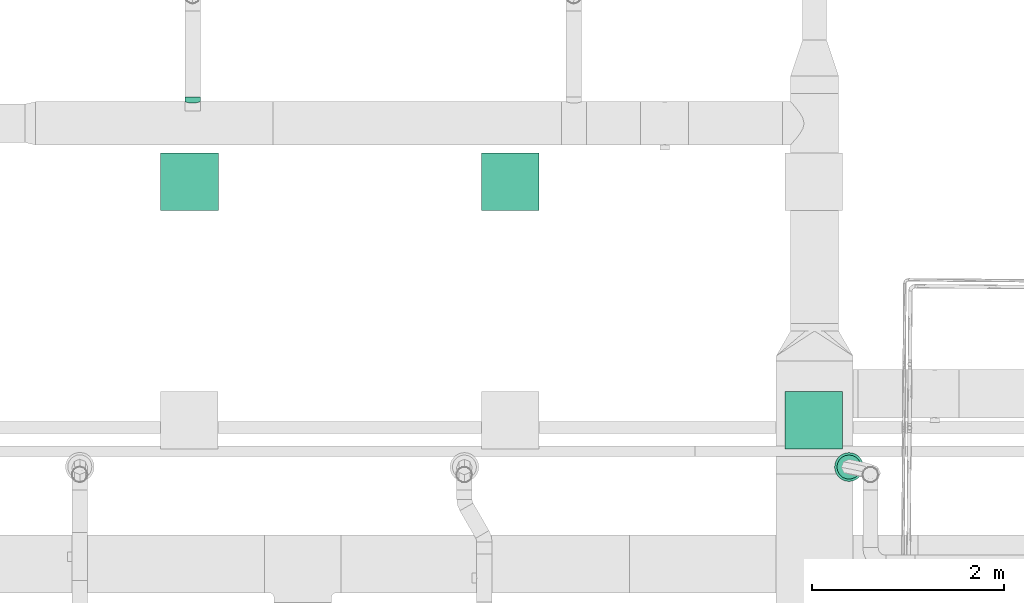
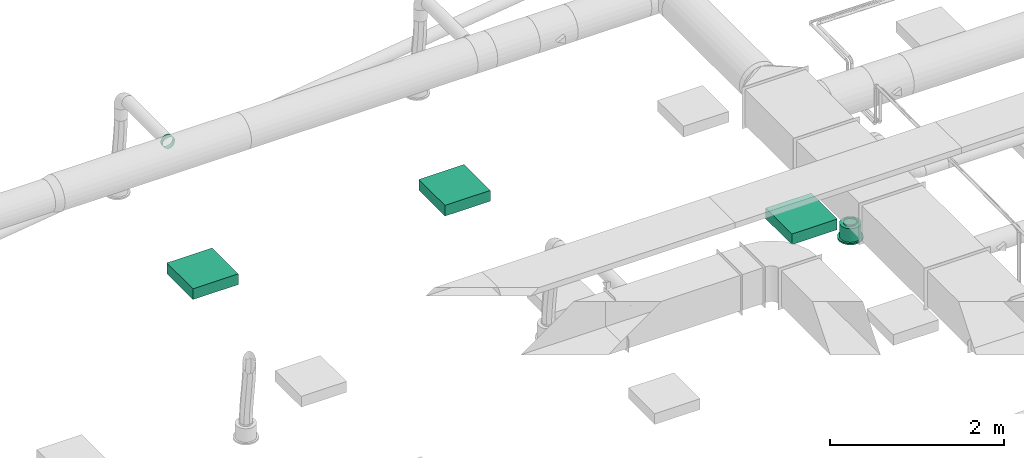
# One storey, part 162 of 374: 3 distribution elements, 1 flow segment, 1 flow terminal.
"""IFC2X3 building model written with IfcOpenShell, lengths in metres."""

from ifc_helpers import new_model, si_unit, direction, frame, frame_2d, origin, place, context, subcontext, project, spatial, rectangle, extrude, open_shell, surface_model, source, transform, mapped, element, save


model = new_model("IFC2X3")

# Units and contexts
model_context = context("Model", 3, precision=1e-05, world=origin(), true_north=direction((-0.4480736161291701, 0.8939966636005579)))
body_context = subcontext(model_context, "Body", "Model", "MODEL_VIEW")
ifc_project = project(units=[si_unit("LENGTHUNIT", "METRE"), si_unit("AREAUNIT", "SQUARE_METRE"), si_unit("VOLUMEUNIT", "CUBIC_METRE"), si_unit("PLANEANGLEUNIT", "RADIAN"), si_unit("THERMODYNAMICTEMPERATUREUNIT", "KELVIN"), si_unit("MASSUNIT", "GRAM", prefix="KILO"), si_unit("TIMEUNIT", "SECOND")], contexts=[model_context])

# Site, building, storey
site_placement = place(None, origin())
site = spatial("IfcSite", under=ifc_project, at=site_placement, Name="Site 1", CompositionType="ELEMENT")
building_placement = place(site_placement, origin())
building = spatial("IfcBuilding", under=site, at=building_placement, Name="Undefined", CompositionType="ELEMENT")
storey_placement = place(building_placement, origin())
storey = spatial("IfcBuildingStorey", under=building, at=storey_placement, Name="Rez de chauss\x8ee", CompositionType="ELEMENT", Elevation=0.0)

# Flow terminal
shared_shape_1 = source(origin(), body_context, "Body", "SurfaceModel", [
    surface_model("IfcFaceBasedSurfaceModel", [(0.0, 0.0, 0.0), (0.03915785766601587, 0.0, 0.0), (0.03915785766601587, 0.020000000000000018, 0.0), (3.552713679e-15, 0.020000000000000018, 0.0), (0.07698144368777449, 0.0, -0.010134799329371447), (0.07698144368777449, 0.020000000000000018, -0.010134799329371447), (0.11089314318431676, 0.0, -0.02971372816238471), (0.11089314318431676, 0.020000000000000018, -0.02971372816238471), (0.13858192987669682, 0.0, -0.05740251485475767), (0.13858192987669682, 0.020000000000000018, -0.05740251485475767), (0.15816085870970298, 0.0, -0.09131421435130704), (0.15816085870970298, 0.020000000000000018, -0.09131421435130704), (0.16829565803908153, 0.0, -0.12913780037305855), (0.16829565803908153, 0.020000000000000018, -0.12913780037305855), (0.16829565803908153, 0.0, -0.16829565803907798), (0.16829565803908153, 0.020000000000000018, -0.16829565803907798), (0.15816085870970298, 0.0, -0.20611924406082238), (0.15816085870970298, 0.020000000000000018, -0.20611924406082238), (0.13858192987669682, 0.0, -0.24003094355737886), (0.13858192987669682, 0.020000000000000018, -0.24003094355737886), (0.11089314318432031, 0.0, -0.2677197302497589), (0.11089314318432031, 0.020000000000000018, -0.2677197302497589), (0.07698144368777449, 0.0, -0.2872986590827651), (0.07698144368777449, 0.020000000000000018, -0.2872986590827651), (0.039157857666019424, 0.0, -0.29743345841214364), (0.039157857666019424, 0.020000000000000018, -0.29743345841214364), (3.552713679e-15, 0.0, -0.29743345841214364), (3.552713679e-15, 0.020000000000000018, -0.29743345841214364), (-0.03782358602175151, 0.0, -0.2872986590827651), (-0.03782358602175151, 0.020000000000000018, -0.2872986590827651), (-0.07173528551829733, 0.0, -0.2677197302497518), (-0.07173528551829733, 0.020000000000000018, -0.2677197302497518), (-0.0994240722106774, 0.0, -0.24003094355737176), (-0.0994240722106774, 0.020000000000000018, -0.24003094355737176), (-0.11900300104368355, 0.0, -0.2061192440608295), (-0.11900300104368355, 0.020000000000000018, -0.2061192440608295), (-0.1291378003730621, 0.0, -0.16829565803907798), (-0.1291378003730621, 0.020000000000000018, -0.16829565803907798), (-0.1291378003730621, 0.0, -0.12913780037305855), (-0.1291378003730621, 0.020000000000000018, -0.12913780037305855), (-0.11900300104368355, 0.0, -0.09131421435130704), (-0.11900300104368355, 0.020000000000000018, -0.09131421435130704), (-0.0994240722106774, 0.0, -0.05740251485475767), (-0.0994240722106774, 0.020000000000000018, -0.05740251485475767), (-0.07173528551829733, 0.0, -0.029713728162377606), (-0.07173528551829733, 0.020000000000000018, -0.029713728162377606), (-0.03782358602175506, 0.0, -0.010134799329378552), (-0.03782358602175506, 0.020000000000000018, -0.010134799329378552), (0.019578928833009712, 0.0, -0.14871672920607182), (0.019578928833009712, 0.020000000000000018, -0.14871672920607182), (0.003263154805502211, 0.020000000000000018, -0.02478612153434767), (0.035894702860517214, 0.020000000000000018, -0.02478612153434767), (0.035894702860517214, 0.20999999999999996, -0.02478612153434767), (0.003263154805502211, 0.20999999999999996, -0.02478612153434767), (0.06741435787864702, 0.020000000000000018, -0.033231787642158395), (0.06741435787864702, 0.20999999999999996, -0.033231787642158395), (0.0956741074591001, 0.020000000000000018, -0.04954756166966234), (0.0956741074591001, 0.20999999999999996, -0.04954756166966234), (0.11874809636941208, 0.020000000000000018, -0.07262155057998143), (0.11874809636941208, 0.20999999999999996, -0.07262155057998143), (0.13506387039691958, 0.020000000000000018, -0.10088130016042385), (0.13506387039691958, 0.20999999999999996, -0.10088130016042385), (0.1435095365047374, 0.020000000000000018, -0.13240095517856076), (0.1435095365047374, 0.20999999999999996, -0.13240095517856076), (0.1435095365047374, 0.020000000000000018, -0.16503250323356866), (0.1435095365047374, 0.20999999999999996, -0.16503250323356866), (0.13506387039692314, 0.020000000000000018, -0.19655215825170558), (0.13506387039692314, 0.20999999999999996, -0.19655215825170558), (0.11874809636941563, 0.020000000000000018, -0.2248119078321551), (0.11874809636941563, 0.20999999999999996, -0.2248119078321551), (0.09567410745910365, 0.020000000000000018, -0.24788589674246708), (0.09567410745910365, 0.20999999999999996, -0.24788589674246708), (0.06741435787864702, 0.020000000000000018, -0.26420167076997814), (0.06741435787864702, 0.20999999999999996, -0.26420167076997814), (0.035894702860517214, 0.020000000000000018, -0.27264733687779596), (0.035894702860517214, 0.20999999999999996, -0.27264733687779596), (0.0032631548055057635, 0.020000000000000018, -0.27264733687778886), (0.0032631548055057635, 0.20999999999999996, -0.27264733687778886), (-0.028256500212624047, 0.020000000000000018, -0.26420167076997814), (-0.028256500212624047, 0.20999999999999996, -0.26420167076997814), (-0.05651624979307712, 0.020000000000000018, -0.2478858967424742), (-0.05651624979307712, 0.20999999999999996, -0.2478858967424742), (-0.07959023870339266, 0.020000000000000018, -0.2248119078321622), (-0.07959023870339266, 0.20999999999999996, -0.2248119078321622), (-0.09590601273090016, 0.020000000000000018, -0.19655215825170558), (-0.09590601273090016, 0.20999999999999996, -0.19655215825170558), (-0.10435167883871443, 0.020000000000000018, -0.16503250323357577), (-0.10435167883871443, 0.20999999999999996, -0.16503250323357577), (-0.10435167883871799, 0.020000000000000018, -0.13240095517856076), (-0.10435167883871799, 0.20999999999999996, -0.13240095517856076), (-0.09590601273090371, 0.020000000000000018, -0.10088130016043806), (-0.09590601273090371, 0.20999999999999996, -0.10088130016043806), (-0.07959023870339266, 0.020000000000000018, -0.07262155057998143), (-0.07959023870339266, 0.20999999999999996, -0.07262155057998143), (-0.056516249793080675, 0.020000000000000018, -0.04954756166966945), (-0.056516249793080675, 0.20999999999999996, -0.04954756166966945), (-0.028256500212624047, 0.020000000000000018, -0.033231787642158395), (-0.028256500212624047, 0.20999999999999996, -0.033231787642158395), (0.019578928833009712, 0.20999999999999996, -0.14871672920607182), (0.009136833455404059, 0.20999999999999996, -0.06940114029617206), (0.030021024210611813, 0.20999999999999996, -0.06940114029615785), (0.030021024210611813, 0.22999999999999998, -0.06940114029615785), (0.009136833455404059, 0.22999999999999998, -0.06940114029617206), (0.05019360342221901, 0.20999999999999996, -0.07480636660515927), (0.05019360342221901, 0.22999999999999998, -0.07480636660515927), (0.06827984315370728, 0.20999999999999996, -0.08524846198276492), (0.06827984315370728, 0.22999999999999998, -0.08524846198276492), (0.0830471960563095, 0.20999999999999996, -0.10001581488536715), (0.0830471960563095, 0.22999999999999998, -0.10001581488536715), (0.0934892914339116, 0.20999999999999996, -0.11810205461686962), (0.0934892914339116, 0.22999999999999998, -0.11810205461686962), (0.09889451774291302, 0.20999999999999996, -0.13827463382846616), (0.09889451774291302, 0.22999999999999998, -0.13827463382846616), (0.09889451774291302, 0.20999999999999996, -0.15915882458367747), (0.09889451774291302, 0.22999999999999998, -0.15915882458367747), (0.09348929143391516, 0.20999999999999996, -0.179331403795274), (0.09348929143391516, 0.22999999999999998, -0.179331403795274), (0.0830471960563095, 0.20999999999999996, -0.19741764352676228), (0.0830471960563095, 0.22999999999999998, -0.19741764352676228), (0.06827984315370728, 0.20999999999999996, -0.2121849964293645), (0.06827984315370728, 0.22999999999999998, -0.2121849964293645), (0.05019360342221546, 0.20999999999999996, -0.22262709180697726), (0.05019360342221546, 0.22999999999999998, -0.22262709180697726), (0.030021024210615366, 0.20999999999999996, -0.22803231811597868), (0.030021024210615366, 0.22999999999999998, -0.22803231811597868), (0.009136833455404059, 0.20999999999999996, -0.22803231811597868), (0.009136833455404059, 0.22999999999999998, -0.22803231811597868), (-0.011035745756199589, 0.20999999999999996, -0.22262709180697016), (-0.011035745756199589, 0.22999999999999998, -0.22262709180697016), (-0.0291219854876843, 0.20999999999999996, -0.2121849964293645), (-0.0291219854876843, 0.22999999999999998, -0.2121849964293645), (-0.043889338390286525, 0.20999999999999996, -0.19741764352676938), (-0.043889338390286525, 0.22999999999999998, -0.19741764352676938), (-0.05433143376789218, 0.20999999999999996, -0.17933140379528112), (-0.05433143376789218, 0.22999999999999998, -0.17933140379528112), (-0.05973666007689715, 0.20999999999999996, -0.15915882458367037), (-0.05973666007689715, 0.22999999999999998, -0.15915882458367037), (-0.0597366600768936, 0.20999999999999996, -0.13827463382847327), (-0.0597366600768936, 0.22999999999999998, -0.13827463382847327), (-0.05433143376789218, 0.20999999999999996, -0.11810205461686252), (-0.05433143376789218, 0.22999999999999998, -0.11810205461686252), (-0.043889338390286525, 0.20999999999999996, -0.10001581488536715), (-0.043889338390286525, 0.22999999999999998, -0.10001581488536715), (-0.02912198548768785, 0.20999999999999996, -0.08524846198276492), (-0.02912198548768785, 0.22999999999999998, -0.08524846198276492), (-0.011035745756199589, 0.20999999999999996, -0.07480636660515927), (-0.011035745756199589, 0.22999999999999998, -0.07480636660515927)], [open_shell([[[0, 1, 2, 3]], [[1, 4, 5, 2]], [[4, 6, 7, 5]], [[6, 8, 9, 7]], [[8, 10, 11, 9]], [[10, 12, 13, 11]], [[12, 14, 15, 13]], [[14, 16, 17, 15]], [[16, 18, 19, 17]], [[18, 20, 21, 19]], [[20, 22, 23, 21]], [[22, 24, 25, 23]], [[24, 26, 27, 25]], [[26, 28, 29, 27]], [[28, 30, 31, 29]], [[30, 32, 33, 31]], [[32, 34, 35, 33]], [[34, 36, 37, 35]], [[36, 38, 39, 37]], [[38, 40, 41, 39]], [[40, 42, 43, 41]], [[42, 44, 45, 43]], [[44, 46, 47, 45]], [[46, 0, 3, 47]], [[48, 1, 0]], [[48, 4, 1]], [[48, 6, 4]], [[48, 8, 6]], [[48, 10, 8]], [[48, 12, 10]], [[48, 14, 12]], [[48, 16, 14]], [[48, 18, 16]], [[48, 20, 18]], [[48, 22, 20]], [[48, 24, 22]], [[48, 26, 24]], [[48, 28, 26]], [[48, 30, 28]], [[48, 32, 30]], [[48, 34, 32]], [[48, 36, 34]], [[48, 38, 36]], [[48, 40, 38]], [[48, 42, 40]], [[48, 44, 42]], [[48, 46, 44]], [[48, 0, 46]], [[49, 47, 3]], [[49, 45, 47]], [[49, 43, 45]], [[49, 41, 43]], [[49, 39, 41]], [[49, 37, 39]], [[49, 35, 37]], [[49, 33, 35]], [[49, 31, 33]], [[49, 29, 31]], [[49, 27, 29]], [[49, 25, 27]], [[49, 23, 25]], [[49, 21, 23]], [[49, 19, 21]], [[49, 17, 19]], [[49, 15, 17]], [[49, 13, 15]], [[49, 11, 13]], [[49, 9, 11]], [[49, 7, 9]], [[49, 5, 7]], [[49, 2, 5]], [[49, 3, 2]], [[50, 51, 52, 53]], [[51, 54, 55, 52]], [[54, 56, 57, 55]], [[56, 58, 59, 57]], [[58, 60, 61, 59]], [[60, 62, 63, 61]], [[62, 64, 65, 63]], [[64, 66, 67, 65]], [[66, 68, 69, 67]], [[68, 70, 71, 69]], [[70, 72, 73, 71]], [[72, 74, 75, 73]], [[74, 76, 77, 75]], [[76, 78, 79, 77]], [[78, 80, 81, 79]], [[80, 82, 83, 81]], [[82, 84, 85, 83]], [[84, 86, 87, 85]], [[86, 88, 89, 87]], [[88, 90, 91, 89]], [[90, 92, 93, 91]], [[92, 94, 95, 93]], [[94, 96, 97, 95]], [[96, 50, 53, 97]], [[49, 51, 50]], [[49, 54, 51]], [[49, 56, 54]], [[49, 58, 56]], [[49, 60, 58]], [[49, 62, 60]], [[49, 64, 62]], [[49, 66, 64]], [[49, 68, 66]], [[49, 70, 68]], [[49, 72, 70]], [[49, 74, 72]], [[49, 76, 74]], [[49, 78, 76]], [[49, 80, 78]], [[49, 82, 80]], [[49, 84, 82]], [[49, 86, 84]], [[49, 88, 86]], [[49, 90, 88]], [[49, 92, 90]], [[49, 94, 92]], [[49, 96, 94]], [[49, 50, 96]], [[98, 97, 53]], [[98, 95, 97]], [[98, 93, 95]], [[98, 91, 93]], [[98, 89, 91]], [[98, 87, 89]], [[98, 85, 87]], [[98, 83, 85]], [[98, 81, 83]], [[98, 79, 81]], [[98, 77, 79]], [[98, 75, 77]], [[98, 73, 75]], [[98, 71, 73]], [[98, 69, 71]], [[98, 67, 69]], [[98, 65, 67]], [[98, 63, 65]], [[98, 61, 63]], [[98, 59, 61]], [[98, 57, 59]], [[98, 55, 57]], [[98, 52, 55]], [[98, 53, 52]], [[99, 100, 101, 102]], [[100, 103, 104, 101]], [[103, 105, 106, 104]], [[105, 107, 108, 106]], [[107, 109, 110, 108]], [[109, 111, 112, 110]], [[111, 113, 114, 112]], [[113, 115, 116, 114]], [[115, 117, 118, 116]], [[117, 119, 120, 118]], [[119, 121, 122, 120]], [[121, 123, 124, 122]], [[123, 125, 126, 124]], [[125, 127, 128, 126]], [[127, 129, 130, 128]], [[129, 131, 132, 130]], [[131, 133, 134, 132]], [[133, 135, 136, 134]], [[135, 137, 138, 136]], [[137, 139, 140, 138]], [[139, 141, 142, 140]], [[141, 143, 144, 142]], [[143, 145, 146, 144]], [[145, 99, 102, 146]]])]),
])
flow_terminal_placement = place(storey_placement, origin())
element("IfcFlowTerminal", 1, at=flow_terminal_placement, inside=storey, Name="Air diffuseur - bouche", ObjectType="Air diffuseur - bouche", context=body_context, shape_type="MappedRepresentation", body=[
    mapped(shared_shape_1, transform((52.29271069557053, 16.802295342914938, 2.38), x_axis=(0.9914448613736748, 0.13052619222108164, 0.0), y_axis=(0.0, 0.0, 1.0), z_axis=(0.13052619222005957, -0.9914448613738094, 0.0))),
])

# Flow segment
shared_shape_2 = source(origin(), body_context, "Body", "SurfaceModel", [
    surface_model("IfcFaceBasedSurfaceModel", [(0.0009547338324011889, 0.020884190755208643, 0.0), (0.0, 0.0, 0.0), (0.05095473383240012, 0.0, -3.552713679e-15), (0.05095473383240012, 0.020884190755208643, 0.0), (-0.0026293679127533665, -0.02017257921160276, -0.005405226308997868), (0.05095473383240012, -0.02017257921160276, -0.005405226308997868), (-0.0062724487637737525, -0.038258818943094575, -0.01584732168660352), (0.05095473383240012, -0.038258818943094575, -0.01584732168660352), (-0.009977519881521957, -0.05302617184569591, -0.030614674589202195), (0.05095473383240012, -0.05302617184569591, -0.030614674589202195), (-0.012731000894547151, -0.06346826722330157, -0.04870091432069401), (0.05095473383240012, -0.06346826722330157, -0.04870091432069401), (-0.013747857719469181, -0.06887349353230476, -0.0688734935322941), (0.05095473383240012, -0.06887349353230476, -0.0688734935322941), (-0.012731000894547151, -0.06887349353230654, -0.08975768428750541), (0.05095473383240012, -0.06887349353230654, -0.08975768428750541), (-0.009977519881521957, -0.0634682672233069, -0.10993026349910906), (0.05095473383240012, -0.0634682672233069, -0.10993026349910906), (-0.0062724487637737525, -0.05302617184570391, -0.12801650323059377), (0.05095473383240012, -0.05302617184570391, -0.12801650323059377), (-0.0026293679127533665, -0.038258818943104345, -0.14278385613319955), (0.05095473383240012, -0.038258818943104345, -0.14278385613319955), (0.0, -0.020172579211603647, -0.15322595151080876), (0.05095473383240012, -0.020172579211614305, -0.1532259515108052), (0.0009547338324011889, -1.1546319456e-14, -0.15863117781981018), (0.05095473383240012, -1.1546319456e-14, -0.15863117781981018), (0.0, 0.020884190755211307, -0.15863117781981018), (0.05095473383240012, 0.020884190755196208, -0.15863117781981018), (-0.0026293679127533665, 0.041056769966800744, -0.15322595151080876), (0.05095473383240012, 0.041056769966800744, -0.15322595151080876), (-0.0062724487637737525, 0.05914300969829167, -0.1427838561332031), (0.05095473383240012, 0.05914300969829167, -0.1427838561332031), (-0.009977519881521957, 0.07391036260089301, -0.12801650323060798), (0.05095473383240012, 0.07391036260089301, -0.12801650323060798), (-0.012731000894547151, 0.08435245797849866, -0.10993026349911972), (0.05095473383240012, 0.08435245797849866, -0.10993026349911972), (-0.013747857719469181, 0.08975768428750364, -0.08975768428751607), (0.05095473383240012, 0.08975768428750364, -0.08975768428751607), (-0.012731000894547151, 0.08975768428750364, -0.06887349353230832), (0.05095473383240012, 0.08975768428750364, -0.06887349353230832), (-0.009977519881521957, 0.08435245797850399, -0.048700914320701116), (0.05095473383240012, 0.08435245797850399, -0.048700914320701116), (-0.0062724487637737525, 0.073910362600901, -0.030614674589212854), (0.05095473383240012, 0.073910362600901, -0.030614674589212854), (-0.0026293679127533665, 0.05914300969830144, -0.015847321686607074), (0.05095473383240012, 0.05914300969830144, -0.015847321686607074), (0.0, 0.04105676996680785, -0.005405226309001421), (0.05095473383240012, 0.0410567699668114, -0.005405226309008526)], [open_shell([[[0, 1, 2, 3]], [[1, 4, 5, 2]], [[4, 6, 7, 5]], [[6, 8, 9, 7]], [[8, 10, 11, 9]], [[10, 12, 13, 11]], [[12, 14, 15, 13]], [[14, 16, 17, 15]], [[16, 18, 19, 17]], [[18, 20, 21, 19]], [[20, 22, 23, 21]], [[22, 24, 25, 23]], [[24, 26, 27, 25]], [[26, 28, 29, 27]], [[28, 30, 31, 29]], [[30, 32, 33, 31]], [[32, 34, 35, 33]], [[34, 36, 37, 35]], [[36, 38, 39, 37]], [[38, 40, 41, 39]], [[40, 42, 43, 41]], [[42, 44, 45, 43]], [[44, 46, 47, 45]], [[46, 0, 3, 47]]])]),
])
flow_segment_placement = place(storey_placement, origin())
element("IfcFlowSegment", 2, at=flow_segment_placement, inside=storey, Name="Piquage équerre circulaire", ObjectType="Piquage équerre circulaire", context=body_context, shape_type="MappedRepresentation", body=[
    mapped(shared_shape_2, transform((45.54283964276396, 20.750933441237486, 3.7792944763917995), x_axis=(0.0, 1.0, 0.0), y_axis=(0.1305261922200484, 0.0, 0.9914448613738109), z_axis=(0.9914448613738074, 0.0, -0.13052619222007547))),
])

# Distribution elements
distribution_element_1_placement = place(storey_placement, origin())
element("IfcDistributionElement", 3, at=distribution_element_1_placement, inside=storey, Name="Decken-Rechteckleuchte mit Rahmen AP", ObjectType="Decken-Rechteckleuchte mit Rahmen AP", context=body_context, shape_type="SweptSolid", body=[
    extrude(rectangle(XDim=0.6000000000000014, YDim=0.6000000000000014, at=frame_2d((3.552713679e-15, 0.0), x_axis=(0.0, 1.0))), frame((45.43255998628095, 19.920550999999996, 2.5500000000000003), z_axis=(0.0, 0.0, -1.0), x_axis=(1.0, 0.0, 0.0)), (0.0, 0.0, 1.0), 0.15),
])
distribution_element_2_placement = place(storey_placement, origin())
element("IfcDistributionElement", 4, at=distribution_element_2_placement, inside=storey, Name="Decken-Rechteckleuchte mit Rahmen AP", ObjectType="Decken-Rechteckleuchte mit Rahmen AP", context=body_context, shape_type="SweptSolid", body=[
    extrude(rectangle(XDim=0.6000000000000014, YDim=0.6000000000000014, at=frame_2d((3.552713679e-15, 0.0), x_axis=(0.0, 1.0))), frame((48.76792114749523, 19.920550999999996, 2.5500000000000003), z_axis=(0.0, 0.0, -1.0), x_axis=(1.0, 0.0, 0.0)), (0.0, 0.0, 1.0), 0.15),
])
distribution_element_3_placement = place(storey_placement, origin())
element("IfcDistributionElement", 5, at=distribution_element_3_placement, inside=storey, Name="Decken-Rechteckleuchte mit Rahmen AP", ObjectType="Decken-Rechteckleuchte mit Rahmen AP", context=body_context, shape_type="SweptSolid", body=[
    extrude(rectangle(XDim=0.6000000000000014, YDim=0.6000000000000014, at=frame_2d((3.552713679e-15, 0.0), x_axis=(0.0, 1.0))), frame((51.9257634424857, 17.437499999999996, 2.5500000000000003), z_axis=(0.0, 0.0, -1.0), x_axis=(1.0, 0.0, 0.0)), (0.0, 0.0, 1.0), 0.15),
])

save(model, "model.ifc")
